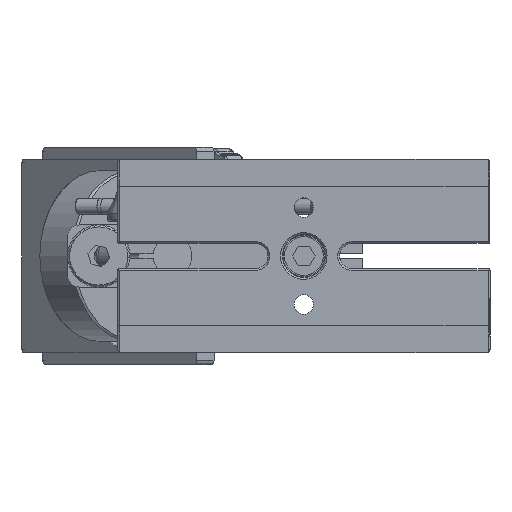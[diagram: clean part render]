
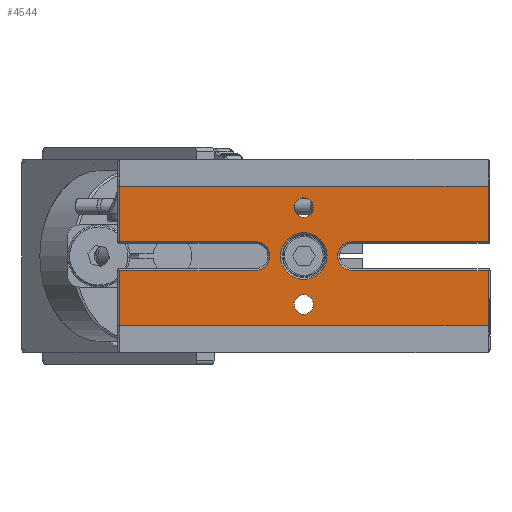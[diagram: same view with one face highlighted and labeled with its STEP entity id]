
A CAD part, front view. The second image highlights one B-rep face of the part: STEP entity #4544.
In plain terms, the highlighted planar face has unit normal (0, -1, 0).
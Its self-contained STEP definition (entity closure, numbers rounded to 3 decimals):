
#207 = VERTEX_POINT ( 'NONE', #4123 ) ;
#215 = VERTEX_POINT ( 'NONE', #4127 ) ;
#217 = VERTEX_POINT ( 'NONE', #4128 ) ;
#232 = VERTEX_POINT ( 'NONE', #4135 ) ;
#243 = VERTEX_POINT ( 'NONE', #4142 ) ;
#247 = VERTEX_POINT ( 'NONE', #4144 ) ;
#251 = VERTEX_POINT ( 'NONE', #4146 ) ;
#2551 = AXIS2_PLACEMENT_3D ( 'NONE', #3326, #3327, #3328 ) ;
#3326 = CARTESIAN_POINT ( 'NONE',  ( -125.508, -179.4, 0. ) ) ;
#3327 = DIRECTION ( 'NONE',  ( 0., 1., 0. ) ) ;
#3328 = DIRECTION ( 'NONE',  ( 0., 0., 1. ) ) ;
#3413 = CARTESIAN_POINT ( 'NONE',  ( -78.008, -179.4, 18. ) ) ;
#3419 = CARTESIAN_POINT ( 'NONE',  ( -113.008, -179.4, 3.75 ) ) ;
#3424 = CARTESIAN_POINT ( 'NONE',  ( -113.008, -179.4, -3.75 ) ) ;
#3429 = CARTESIAN_POINT ( 'NONE',  ( -78.008, -179.4, 3.75 ) ) ;
#3434 = CARTESIAN_POINT ( 'NONE',  ( -78.008, -179.4, -3.75 ) ) ;
#3632 = CIRCLE ( 'NONE', #2551, 6. ) ;
#3757 = VERTEX_POINT ( 'NONE', #3931 ) ;
#3760 = VERTEX_POINT ( 'NONE', #3934 ) ;
#3886 = VERTEX_POINT ( 'NONE', #4060 ) ;
#3931 = CARTESIAN_POINT ( 'NONE',  ( -125.508, -179.4, -15. ) ) ;
#3934 = CARTESIAN_POINT ( 'NONE',  ( -125.508, -179.4, 10. ) ) ;
#4060 = CARTESIAN_POINT ( 'NONE',  ( -125.508, -179.4, 6. ) ) ;
#4123 = CARTESIAN_POINT ( 'NONE',  ( -138.008, -179.4, 3.75 ) ) ;
#4127 = CARTESIAN_POINT ( 'NONE',  ( -78.008, -179.4, -18. ) ) ;
#4128 = CARTESIAN_POINT ( 'NONE',  ( -138.008, -179.4, -3.75 ) ) ;
#4135 = CARTESIAN_POINT ( 'NONE',  ( -173.008, -179.4, -18. ) ) ;
#4142 = CARTESIAN_POINT ( 'NONE',  ( -173.008, -179.4, -3.75 ) ) ;
#4144 = CARTESIAN_POINT ( 'NONE',  ( -173.008, -179.4, 18. ) ) ;
#4146 = CARTESIAN_POINT ( 'NONE',  ( -173.008, -179.4, 3.75 ) ) ;
#4225 = EDGE_CURVE ( 'NONE', #217, #243, #13321, .T. ) ;
#4227 = EDGE_CURVE ( 'NONE', #243, #232, #13324, .T. ) ;
#4229 = EDGE_CURVE ( 'NONE', #251, #207, #13322, .T. ) ;
#4234 = EDGE_CURVE ( 'NONE', #232, #215, #13337, .T. ) ;
#4252 = EDGE_CURVE ( 'NONE', #207, #217, #13360, .T. ) ;
#4544 = ADVANCED_FACE ( 'NONE', ( #14221, #14224, #14215, #14220 ), #15506, .F. ) ;
#7868 = EDGE_LOOP ( 'NONE', ( #8767 ) ) ;
#7874 = EDGE_LOOP ( 'NONE', ( #8769 ) ) ;
#7877 = EDGE_LOOP ( 'NONE', ( #8771 ) ) ;
#7878 = EDGE_LOOP ( 'NONE', ( #8773, #8775, #8777, #8779, #8781, #8783, #8785, #8787, #8789, #8791, #8793, #8795 ) ) ;
#8253 = EDGE_CURVE ( 'NONE', #247, #251, #21762, .T. ) ;
#8274 = EDGE_CURVE ( 'NONE', #13011, #247, #21792, .T. ) ;
#8278 = EDGE_CURVE ( 'NONE', #13022, #13017, #21791, .T. ) ;
#8298 = EDGE_CURVE ( 'NONE', #13017, #13027, #21823, .T. ) ;
#8300 = EDGE_CURVE ( 'NONE', #13027, #13011, #21827, .T. ) ;
#8304 = EDGE_CURVE ( 'NONE', #3757, #3757, #21837, .T. ) ;
#8310 = EDGE_CURVE ( 'NONE', #3760, #3760, #21843, .T. ) ;
#8311 = EDGE_CURVE ( 'NONE', #215, #13032, #21845, .T. ) ;
#8312 = EDGE_CURVE ( 'NONE', #13032, #13022, #21844, .T. ) ;
#8767 = ORIENTED_EDGE ( 'NONE', *, *, #8310, .F. ) ;
#8769 = ORIENTED_EDGE ( 'NONE', *, *, #8304, .F. ) ;
#8771 = ORIENTED_EDGE ( 'NONE', *, *, #12586, .T. ) ;
#8773 = ORIENTED_EDGE ( 'NONE', *, *, #8311, .T. ) ;
#8775 = ORIENTED_EDGE ( 'NONE', *, *, #8312, .T. ) ;
#8777 = ORIENTED_EDGE ( 'NONE', *, *, #8278, .T. ) ;
#8779 = ORIENTED_EDGE ( 'NONE', *, *, #8298, .T. ) ;
#8781 = ORIENTED_EDGE ( 'NONE', *, *, #8300, .T. ) ;
#8783 = ORIENTED_EDGE ( 'NONE', *, *, #8274, .T. ) ;
#8785 = ORIENTED_EDGE ( 'NONE', *, *, #8253, .T. ) ;
#8787 = ORIENTED_EDGE ( 'NONE', *, *, #4229, .T. ) ;
#8789 = ORIENTED_EDGE ( 'NONE', *, *, #4252, .T. ) ;
#8791 = ORIENTED_EDGE ( 'NONE', *, *, #4225, .T. ) ;
#8793 = ORIENTED_EDGE ( 'NONE', *, *, #4227, .T. ) ;
#8795 = ORIENTED_EDGE ( 'NONE', *, *, #4234, .T. ) ;
#12586 = EDGE_CURVE ( 'NONE', #3886, #3886, #3632, .T. ) ;
#12631 = AXIS2_PLACEMENT_3D ( 'NONE', #13531, #13532, #13533 ) ;
#12789 = AXIS2_PLACEMENT_3D ( 'NONE', #15504, #15498, #15507 ) ;
#13011 = VERTEX_POINT ( 'NONE', #3413 ) ;
#13017 = VERTEX_POINT ( 'NONE', #3419 ) ;
#13022 = VERTEX_POINT ( 'NONE', #3424 ) ;
#13027 = VERTEX_POINT ( 'NONE', #3429 ) ;
#13032 = VERTEX_POINT ( 'NONE', #3434 ) ;
#13321 = LINE ( 'NONE', #13453, #13323 ) ;
#13322 = LINE ( 'NONE', #13450, #13331 ) ;
#13323 = VECTOR ( 'NONE', #13454, 1000. ) ;
#13324 = LINE ( 'NONE', #13456, #13327 ) ;
#13327 = VECTOR ( 'NONE', #13457, 1000. ) ;
#13331 = VECTOR ( 'NONE', #13461, 1000. ) ;
#13337 = LINE ( 'NONE', #13469, #13339 ) ;
#13339 = VECTOR ( 'NONE', #13467, 1000. ) ;
#13360 = CIRCLE ( 'NONE', #12631, 3.75 ) ;
#13450 = CARTESIAN_POINT ( 'NONE',  ( -77.508, -179.4, 3.75 ) ) ;
#13453 = CARTESIAN_POINT ( 'NONE',  ( -77.508, -179.4, -3.75 ) ) ;
#13454 = DIRECTION ( 'NONE',  ( -1., 0., 0. ) ) ;
#13456 = CARTESIAN_POINT ( 'NONE',  ( -173.008, -179.4, -18. ) ) ;
#13457 = DIRECTION ( 'NONE',  ( 0., 0., -1. ) ) ;
#13461 = DIRECTION ( 'NONE',  ( 1., 0., 0. ) ) ;
#13467 = DIRECTION ( 'NONE',  ( 1., 0., 0. ) ) ;
#13469 = CARTESIAN_POINT ( 'NONE',  ( -77.508, -179.4, -18. ) ) ;
#13531 = CARTESIAN_POINT ( 'NONE',  ( -138.008, -179.4, 0. ) ) ;
#13532 = DIRECTION ( 'NONE',  ( 0., 1., 0. ) ) ;
#13533 = DIRECTION ( 'NONE',  ( 0., 0., 1. ) ) ;
#14215 = FACE_BOUND ( 'NONE', #7877, .T. ) ;
#14220 = FACE_OUTER_BOUND ( 'NONE', #7878, .T. ) ;
#14221 = FACE_BOUND ( 'NONE', #7868, .T. ) ;
#14224 = FACE_BOUND ( 'NONE', #7874, .T. ) ;
#15498 = DIRECTION ( 'NONE',  ( 0., 1., 0. ) ) ;
#15504 = CARTESIAN_POINT ( 'NONE',  ( -77.508, -179.4, -18. ) ) ;
#15506 = PLANE ( 'NONE',  #12789 ) ;
#15507 = DIRECTION ( 'NONE',  ( 0., 0., 1. ) ) ;
#18915 = AXIS2_PLACEMENT_3D ( 'NONE', #23202, #23203, #23204 ) ;
#18920 = AXIS2_PLACEMENT_3D ( 'NONE', #23271, #23272, #23273 ) ;
#18924 = AXIS2_PLACEMENT_3D ( 'NONE', #23288, #23289, #23290 ) ;
#21762 = LINE ( 'NONE', #23130, #21764 ) ;
#21764 = VECTOR ( 'NONE', #23131, 1000. ) ;
#21791 = CIRCLE ( 'NONE', #18915, 3.75 ) ;
#21792 = LINE ( 'NONE', #23193, #21796 ) ;
#21796 = VECTOR ( 'NONE', #23194, 1000. ) ;
#21823 = LINE ( 'NONE', #23254, #21825 ) ;
#21825 = VECTOR ( 'NONE', #23257, 1000. ) ;
#21827 = LINE ( 'NONE', #23260, #21830 ) ;
#21830 = VECTOR ( 'NONE', #23261, 1000. ) ;
#21837 = CIRCLE ( 'NONE', #18920, 2.5 ) ;
#21843 = CIRCLE ( 'NONE', #18924, 2.5 ) ;
#21844 = LINE ( 'NONE', #23282, #21846 ) ;
#21845 = LINE ( 'NONE', #23283, #21847 ) ;
#21846 = VECTOR ( 'NONE', #23293, 1000. ) ;
#21847 = VECTOR ( 'NONE', #23291, 1000. ) ;
#23130 = CARTESIAN_POINT ( 'NONE',  ( -173.008, -179.4, -18. ) ) ;
#23131 = DIRECTION ( 'NONE',  ( 0., 0., -1. ) ) ;
#23193 = CARTESIAN_POINT ( 'NONE',  ( -77.508, -179.4, 18. ) ) ;
#23194 = DIRECTION ( 'NONE',  ( -1., 0., 0. ) ) ;
#23202 = CARTESIAN_POINT ( 'NONE',  ( -113.008, -179.4, 0. ) ) ;
#23203 = DIRECTION ( 'NONE',  ( 0., 1., 0. ) ) ;
#23204 = DIRECTION ( 'NONE',  ( 0., 0., 1. ) ) ;
#23254 = CARTESIAN_POINT ( 'NONE',  ( -77.508, -179.4, 3.75 ) ) ;
#23257 = DIRECTION ( 'NONE',  ( 1., 0., 0. ) ) ;
#23260 = CARTESIAN_POINT ( 'NONE',  ( -78.008, -179.4, -18. ) ) ;
#23261 = DIRECTION ( 'NONE',  ( 0., 0., 1. ) ) ;
#23271 = CARTESIAN_POINT ( 'NONE',  ( -125.508, -179.4, -12.5 ) ) ;
#23272 = DIRECTION ( 'NONE',  ( 0., -1., 0. ) ) ;
#23273 = DIRECTION ( 'NONE',  ( 0., 0., -1. ) ) ;
#23282 = CARTESIAN_POINT ( 'NONE',  ( -77.508, -179.4, -3.75 ) ) ;
#23283 = CARTESIAN_POINT ( 'NONE',  ( -78.008, -179.4, -18. ) ) ;
#23288 = CARTESIAN_POINT ( 'NONE',  ( -125.508, -179.4, 12.5 ) ) ;
#23289 = DIRECTION ( 'NONE',  ( 0., -1., 0. ) ) ;
#23290 = DIRECTION ( 'NONE',  ( 0., 0., -1. ) ) ;
#23291 = DIRECTION ( 'NONE',  ( 0., 0., 1. ) ) ;
#23293 = DIRECTION ( 'NONE',  ( -1., 0., 0. ) ) ;
